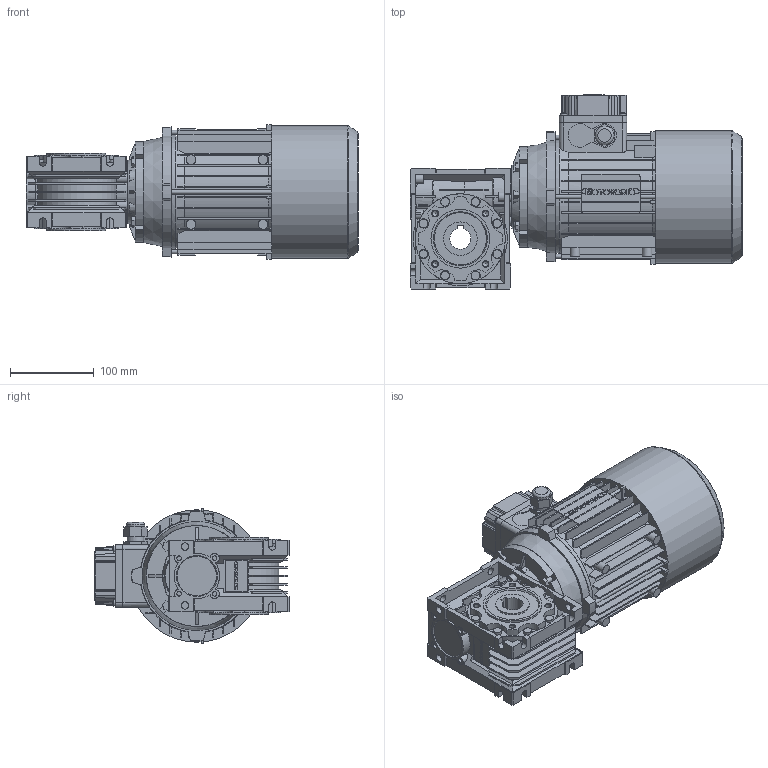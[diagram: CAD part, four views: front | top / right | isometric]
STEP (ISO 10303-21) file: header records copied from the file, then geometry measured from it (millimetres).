
FILE_DESCRIPTION(/* description */ ('STEP AP203'),/* implementation_level */ '2;1');
FILE_NAME(/* name */ 'NMRV0501152511100300TP08080B41(-----IC411NONO------STD)',/* time_stamp */ '2023-05-08T09:10:56+02:00',/* author */ ('License CC BY-ND 4.0'),/* organization */ ('CADENAS'),/* preprocessor_version */ 'ST-DEVELOPER v19.3',/* originating_system */ 'PARTsolutions',/* authorisation */ ' ');
FILE_SCHEMA (('CONFIG_CONTROL_DESIGN'));
Length unit declared in the file: millimetre
Products named in the file (11): NMRV0501152511100300TP08080B41(-----IC411NONO------STD); ALBERO_TP08019X40NO; PRESSACAVO_2; COPRIMORSETTIERA_TP080A002; COP_TP_80B4_IC411_NO_-_-_-_-_STD; CARCASSA_TP80B4080IC411B1419X40NONO--; FLANGIA_TP080B14-; 50-80 B14; VB 050-19 (19); 050-25 (92)alc-n; Gear unit 50
Assembly tree (10 placements, depth 2):
  NMRV0501152511100300TP08080B41(-----IC411NONO------STD)
    ALBERO_TP08019X40NO
    PRESSACAVO_2
    COPRIMORSETTIERA_TP080A002
    COP_TP_80B4_IC411_NO_-_-_-_-_STD
    CARCASSA_TP80B4080IC411B1419X40NONO--
    FLANGIA_TP080B14-
    50-80 B14
    VB 050-19 (19)
    050-25 (92)alc-n
    Gear unit 50
Bounding box: 395.5 x 231.5 x 160.29 mm (x, y, z)
Volume: 5769602.5 mm3; surface area: 588131.6 mm2
Topology: 10 solids, 15 shells, 2622 faces, 7219 edges, 4767 vertices
Faces by surface type: plane 1555, cylinder 943, cone 115, torus 5, sphere 4
Full cylindrical faces by diameter (mm): 1.8 x1, 2.02 x1, 3.775 x3, 4.917 x1, 5 x8, 5.55 x4, 6 x8, 6.4 x1, 6.647 x8, 8 x4, 8.8 x8, 10 x14, 11.5 x4, 16 x1, 19 x1, 20 x3, 22 x1, 28 x2, 34 x1, 40 x2, 47 x2, 55 x1, 70 x2, 80 x2, 107 x1, 130 x2, 135 x2, 157.9 x1
Entity records: 90240 total; most frequent: CARTESIAN_POINT 15707, DIRECTION 14284, ORIENTED_EDGE 14098, EDGE_CURVE 7049, AXIS2_PLACEMENT_3D 4961, VERTEX_POINT 4740, LINE 4362, VECTOR 4362
